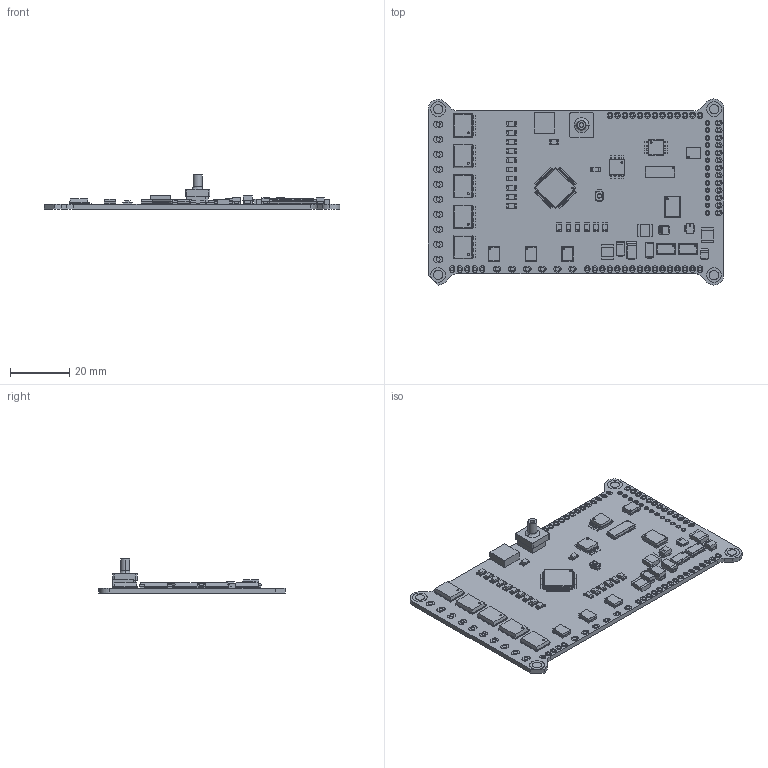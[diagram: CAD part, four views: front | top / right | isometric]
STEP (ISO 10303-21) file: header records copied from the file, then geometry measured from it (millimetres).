
FILE_DESCRIPTION(('FreeCAD Model'),'2;1');
FILE_NAME('Open CASCADE Shape Model','2025-06-15T15:32:27',(''),(''), 'Open CASCADE STEP processor 7.6','FreeCAD','Unknown');
FILE_SCHEMA(('AUTOMOTIVE_DESIGN { 1 0 10303 214 1 1 1 1 }'));
Length unit declared in the file: millimetre
Products named in the file (169): BZO Smart Board 1; SW_SPST_B3U-1000P001; SW_SPST_B3U-1000P; LED_1206_3216Metric001; LED_1206_3216Metric; LED_1206_3216Metric003; FDS89161LZ; ASSEMBLY009; ASSEMBLY; MPXHZ6250AC6T013; MPXHZ6250AC6T012; MPXHZ6250AC6T1; MPXHZ6250AC6T002; 1SMA5914BT3G; ASSEMBLY013; ASSEMBLY010; ASSEMBLY011; ASSEMBLY012; SQJQ910EL-T1_GE007; SQJQ910EL-T1_GE006; SQJQ910EL-T1_GE005; SQJQ910EL-T1_GE012; SQJQ910EL-T1_GE011; LFPAK33; SOT-1210_LFPAK33; SPX2954M3-L-3-3_TR; ASSEMBLY019; ASSEMBLY014; LED_1206_3216Metric005; SPX2954M3-L-3-3_TR001; ASSEMBLY025; LED_1206_3216Metric007; LED_1206_3216Metric009; CP_EIA-3528-21_Kemet-B; CP_EIA_3528_21_Kemet_B; MC14504BDG; ASSEMBLY043; ASSEMBLY026; SOIJ-8_5.3x5.3mm_P1.27mm; SOIJ_8_53x53mm_P127mm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
Assembly tree (200 placements, depth 4):
  BZO Smart Board 1
    SW_SPST_B3U-1000P001
      SW_SPST_B3U-1000P
    LED_1206_3216Metric001
      LED_1206_3216Metric
    LED_1206_3216Metric003
      LED_1206_3216Metric
    FDS89161LZ
      ASSEMBLY009
        ASSEMBLY
    MPXHZ6250AC6T013
      MPXHZ6250AC6T012
        MPXHZ6250AC6T1
        MPXHZ6250AC6T002
    1SMA5914BT3G
      ASSEMBLY013
        ASSEMBLY010
        ASSEMBLY011
        ASSEMBLY012
    SQJQ910EL-T1_GE007
      SQJQ910EL-T1_GE006
        SQJQ910EL-T1_GE005
    SQJQ910EL-T1_GE012
      SQJQ910EL-T1_GE011
        SQJQ910EL-T1_GE005
    LFPAK33
      SOT-1210_LFPAK33
    SPX2954M3-L-3-3_TR
      ASSEMBLY019
        ASSEMBLY014
    LED_1206_3216Metric005
      LED_1206_3216Metric
    SPX2954M3-L-3-3_TR001
      ASSEMBLY025
        ASSEMBLY014
    LED_1206_3216Metric007
      LED_1206_3216Metric
    LED_1206_3216Metric009
      LED_1206_3216Metric
    CP_EIA-3528-21_Kemet-B
      CP_EIA_3528_21_Kemet_B
    MC14504BDG
      ASSEMBLY043
        ASSEMBLY026
    SOIJ-8_5.3x5.3mm_P1.27mm
      SOIJ_8_53x53mm_P127mm
    LED_1206_3216Metric011
      LED_1206_3216Metric
    LED_1206_3216Metric013
      LED_1206_3216Metric
    LED_1206_3216Metric015
      LED_1206_3216Metric
    LED_1206_3216Metric017
      LED_1206_3216Metric
    LED_1206_3216Metric019
      LED_1206_3216Metric
    2016L300_16MR
      ASSEMBLY047
        ASSEMBLY044
        ASSEMBLY045
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Bounding box: 100.03 x 62.97 x 11.56 mm (x, y, z)
Volume: 1738.8 mm3; surface area: 15741.7 mm2
Topology: 135 solids, 136 shells, 6679 faces, 18124 edges, 11739 vertices
Faces by surface type: plane 5482, cylinder 962, bspline 199, sphere 17, torus 17, cone 2
Full cylindrical faces by diameter (mm): 0.438 x2, 0.487 x5, 0.5 x1, 0.6 x2, 0.662 x1, 0.95 x13, 1.15 x47, 1.35 x16, 1.5 x1, 3.15 x4, 5 x4
Entity records: 174848 total; most frequent: CARTESIAN_POINT 32784, ORIENTED_EDGE 26846, DIRECTION 24420, EDGE_CURVE 13424, LINE 12006, VECTOR 12006, VERTEX_POINT 8733, AXIS2_PLACEMENT_3D 6207
